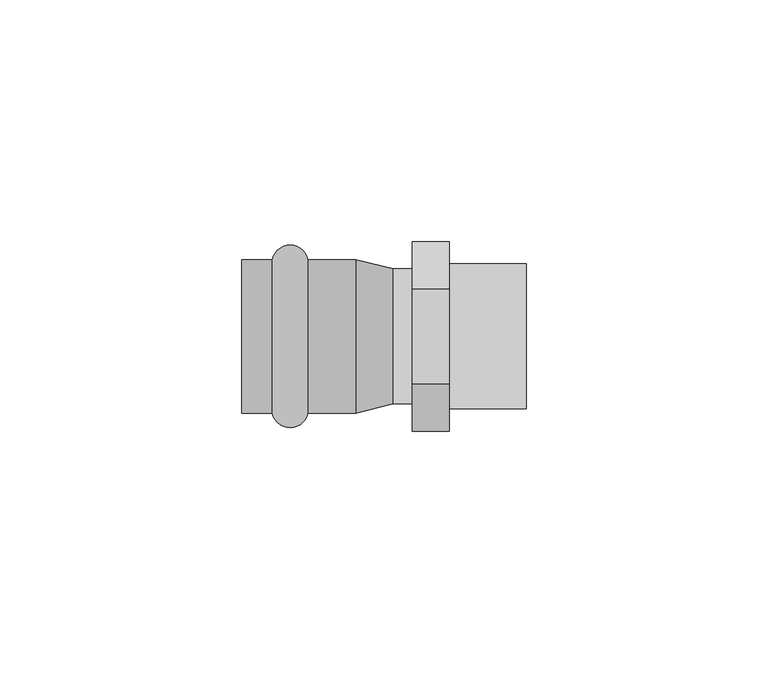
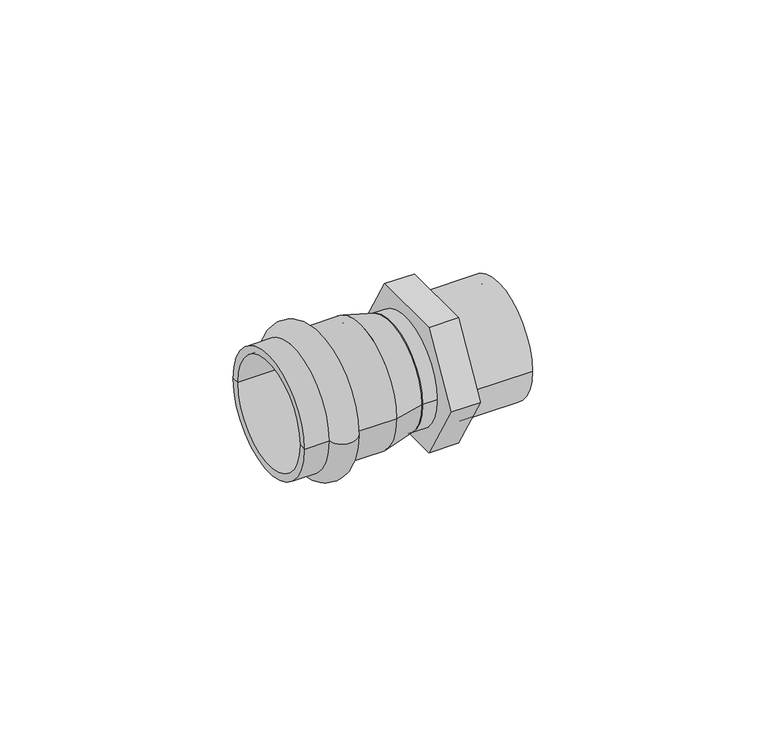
"""IFC4 building model written with IfcOpenShell, lengths in millimetres: pipe fitting geometry, VALTEC_VTi.901.I_Соединитель прямой с переходом на наружную резьбу_Нержавеющая сталь : VTi.901.I."""

from ifc_helpers import new_model, si_unit, point, frame, origin, origin_2d, place, context, project, spatial, polyline, circle_curve, ellipse_curve, trimmed, segment, composite_curve, outline, extrude, source, transform, mapped, element, save
from ifc_brep_helpers import plane_surface, cylinder_surface, revolved_surface, advanced_brep


def pipe_fitting_3a1c1108(model_context):
    return source(origin(), model_context, "Body", "SolidModel", [
        advanced_brep(
        [(-32.8192346, -15.9, 0.0), (-32.8192346, 15.9, 0.0), (-25.4707654, 15.9, 0.0), (-25.4707654, -15.9, 0.0), (-39.195, -15.9, 0.0), (-39.195, 15.9, 0.0), (-39.195, -14.0, 0.0), (-39.195, 14.0, 0.0), (-15.595, -14.0, 0.0), (-15.595, 14.0, 0.0), (-15.595, -15.9, 0.0), (-15.595, 15.9, 0.0)],
        [
            (0, 1, circle_curve(frame((-32.8192346, 0.0, 0.0), z_axis=(1.0, 0.0, 0.0), x_axis=(0.0, 1.0, 0.0)), 15.9)),
            (1, 2, circle_curve(frame((-29.145, 15.15, 0.0), z_axis=(0.0, 0.0, -1.0), x_axis=(1.0, 0.0, 0.0)), 3.75)),
            (2, 3, circle_curve(frame((-25.4707654, 0.0, 0.0), z_axis=(-1.0, 0.0, 0.0), x_axis=(0.0, 1.0, 0.0)), 15.9)),
            (3, 0, circle_curve(frame((-29.145, -15.15, 0.0), z_axis=(0.0, 0.0, -1.0), x_axis=(1.0, 0.0, 0.0)), 3.75)),
            (1, 0, circle_curve(frame((-32.8192346, 0.0, 0.0), z_axis=(1.0, 0.0, 0.0), x_axis=(0.0, 1.0, 0.0)), 15.9)),
            (3, 2, circle_curve(frame((-25.4707654, 0.0, 0.0), z_axis=(-1.0, 0.0, 0.0), x_axis=(0.0, 1.0, 0.0)), 15.9)),
            (4, 5, circle_curve(frame((-39.195, 0.0, 0.0), z_axis=(1.0, 0.0, 0.0), x_axis=(0.0, 1.0, 0.0)), 15.9)),
            (5, 1),
            (0, 4),
            (5, 4, circle_curve(frame((-39.195, 0.0, 0.0), z_axis=(1.0, 0.0, 0.0), x_axis=(0.0, 1.0, 0.0)), 15.9)),
            (6, 7, circle_curve(frame((-39.195, 0.0, 0.0), z_axis=(1.0, 0.0, 0.0), x_axis=(0.0, 1.0, 0.0)), 14.0)),
            (7, 5),
            (4, 6),
            (7, 6, circle_curve(frame((-39.195, 0.0, 0.0), z_axis=(1.0, 0.0, 0.0), x_axis=(0.0, 1.0, 0.0)), 14.0)),
            (8, 9, circle_curve(frame((-15.595, 0.0, 0.0), z_axis=(1.0, 0.0, 0.0), x_axis=(0.0, 1.0, 0.0)), 14.0)),
            (9, 7),
            (6, 8),
            (9, 8, circle_curve(frame((-15.595, 0.0, 0.0), z_axis=(1.0, 0.0, 0.0), x_axis=(0.0, 1.0, 0.0)), 14.0)),
            (10, 11, circle_curve(frame((-15.595, 0.0, 0.0), z_axis=(1.0, 0.0, 0.0), x_axis=(0.0, 1.0, 0.0)), 15.9)),
            (11, 9),
            (8, 10),
            (11, 10, circle_curve(frame((-15.595, 0.0, 0.0), z_axis=(1.0, 0.0, 0.0), x_axis=(0.0, 1.0, 0.0)), 15.9)),
            (2, 11),
            (10, 3),
        ],
        [
            revolved_surface(trimmed(ellipse_curve(frame((-29.145, 15.15, 0.0), z_axis=(0.0, 0.0, 1.0), x_axis=(1.0, 0.0, 0.0)), 3.75, 3.75), [point((-25.4707654, 15.9, 0.0))], [point((-32.8192346, 15.9, 0.0))], True, "CARTESIAN"), (-42.7314426, 0.0, 0.0), (-1.0, 0.0, 0.0)),
            cylinder_surface(frame((-42.7314426, 0.0, 0.0), z_axis=(-1.0, 0.0, 0.0), x_axis=(0.0, 1.0, 0.0)), 15.9),
            plane_surface(frame((-39.195, 0.0, 0.0), z_axis=(-1.0, 0.0, 0.0), x_axis=(0.0, 1.0, 0.0))),
            revolved_surface(polyline([(-39.195, 14.0, 0.0), (-15.594999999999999, 14.0, 0.0)]), (-42.7314426, 0.0, 0.0), (-1.0, 0.0, 0.0)),
            plane_surface(frame((-15.595, 0.0, 0.0), z_axis=(1.0, 0.0, 0.0), x_axis=(0.0, 1.0, 0.0))),
        ],
        [
            (0, [[1, 2, 3, 4]]),
            (0, [[5, -4, 6, -2]]),
            (1, [[7, 8, -1, 9]]),
            (1, [[10, -9, -5, -8]]),
            (2, [[11, 12, -7, 13]]),
            (2, [[14, -13, -10, -12]]),
            (3, [[15, 16, -11, 17]]),
            (3, [[18, -17, -14, -16]]),
            (4, [[19, 20, -15, 21]]),
            (4, [[22, -21, -18, -20]]),
            (1, [[-3, 23, -19, 24]]),
            (1, [[-6, -24, -22, -23]]),
        ],
    ),
        extrude(outline(polyline([(-19.6299092, 0.0), (-9.8149546, 17.0), (9.8149546, 17.0), (19.6299092, 0.0), (9.8149546, -17.0), (-9.8149546, -17.0), (-19.6299092, 0.0)])), frame((-3.805, 0.0, 0.0), z_axis=(1.0, 0.0, 0.0), x_axis=(0.0, 1.0, 0.0)), (0.0, 0.0, 1.0), 7.61),
        extrude(outline(composite_curve([segment(trimmed(circle_curve(origin_2d(), 14.0), [point((-14.0, 0.0))], [point((14.0, 0.0))], False, "CARTESIAN"), True, "CONTINUOUS"), segment(trimmed(circle_curve(origin_2d(), 14.0), [point((14.0, 0.0))], [point((-14.0, 0.0))], False, "CARTESIAN"), True, "CONTINUOUS")], self_intersect=False)), frame((-7.8183127, 0.0, 0.0), z_axis=(1.0, 0.0, 0.0), x_axis=(0.0, 1.0, 0.0)), (0.0, 0.0, 1.0), 4.0133127),
        advanced_brep(
        [(-15.595, -15.9, 0.0), (-15.595, 15.9, 0.0), (-7.8183127, -14.0, 0.0), (-7.8183127, 14.0, 0.0)],
        [
            (0, 1, circle_curve(frame((-15.595, 0.0, 0.0), z_axis=(-1.0, 0.0, 0.0), x_axis=(0.0, -1.0, 0.0)), 15.9)),
            (1, 0, circle_curve(frame((-15.595, 0.0, 0.0), z_axis=(-1.0, 0.0, 0.0), x_axis=(0.0, 1.0, 0.0)), 15.9)),
            (2, 3, circle_curve(frame((-7.8183127, 0.0, 0.0), z_axis=(1.0, 0.0, 0.0), x_axis=(0.0, 1.0, 0.0)), 14.0)),
            (3, 2, circle_curve(frame((-7.8183127, 0.0, 0.0), z_axis=(1.0, 0.0, 0.0), x_axis=(0.0, -1.0, 0.0)), 14.0)),
            (2, 0),
            (1, 3),
        ],
        [
            plane_surface(frame((-15.595, 0.0, 0.0), z_axis=(-1.0, 0.0, 0.0), x_axis=(0.0, 0.0, -1.0))),
            plane_surface(frame((-7.8183127, 0.0, 0.0), z_axis=(1.0, 0.0, 0.0), x_axis=(0.0, 0.0, -1.0))),
            revolved_surface(polyline([(-7.8183127, -14.000000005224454, 0.0), (-15.594999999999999, -15.9, 0.0)]), (49.4835939, 0.0, 0.0), (-1.0, 0.0, 0.0)),
            revolved_surface(polyline([(-7.8183127, 14.000000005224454, 0.0), (-15.594999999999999, 15.9, 0.0)]), (49.4835939, 0.0, 0.0), (-1.0, 0.0, 0.0)),
        ],
        [
            (0, [[1, 2]]),
            (1, [[3, 4]]),
            (2, [[-3, 5, -2, 6]]),
            (3, [[-4, -6, -1, -5]]),
        ],
    ),
        extrude(outline(composite_curve([segment(trimmed(circle_curve(origin_2d(), 15.0), [point((-15.0, 0.0))], [point((15.0, 0.0))], False, "CARTESIAN"), True, "CONTINUOUS"), segment(trimmed(circle_curve(origin_2d(), 15.0), [point((15.0, 0.0))], [point((-15.0, 0.0))], False, "CARTESIAN"), True, "CONTINUOUS")], self_intersect=False), holes=[composite_curve([segment(trimmed(circle_curve(origin_2d(), 12.5), [point((-12.5, 0.0))], [point((12.5, 0.0))], True, "CARTESIAN"), True, "CONTINUOUS"), segment(trimmed(circle_curve(origin_2d(), 12.5), [point((12.5, 0.0))], [point((-12.5, 0.0))], True, "CARTESIAN"), True, "CONTINUOUS")], self_intersect=False)]), frame((3.805, 0.0, 0.0), z_axis=(1.0, 0.0, 0.0), x_axis=(0.0, 1.0, 0.0)), (0.0, 0.0, 1.0), 16.0),
    ])


if __name__ == "__main__":
    model = new_model("IFC4")
    model_context = context("Model", 3, world=origin())
    ifc_project = project(units=[si_unit("LENGTHUNIT", "METRE", prefix="MILLI")], contexts=[model_context])
    site = spatial("IfcSite", under=ifc_project)
    building = spatial("IfcBuilding", under=site)
    placement = place(None, origin())
    pipe_fitting_shape = pipe_fitting_3a1c1108(model_context)
    element("IfcPipeFitting", 1, ObjectType="VALTEC_VTi.901.I_Соединитель прямой с переходом на наружную резьбу_Нержавеющая сталь : VTi.901.I", at=placement, inside=building, context=model_context, shape_type="MappedRepresentation", body=[
        mapped(pipe_fitting_shape, transform((0.0, 0.0, 0.0), x_axis=(1.0, 0.0, 0.0), y_axis=(0.0, 1.0, 0.0), z_axis=(0.0, 0.0, 1.0))),
    ])
    save(model, "model.ifc")
